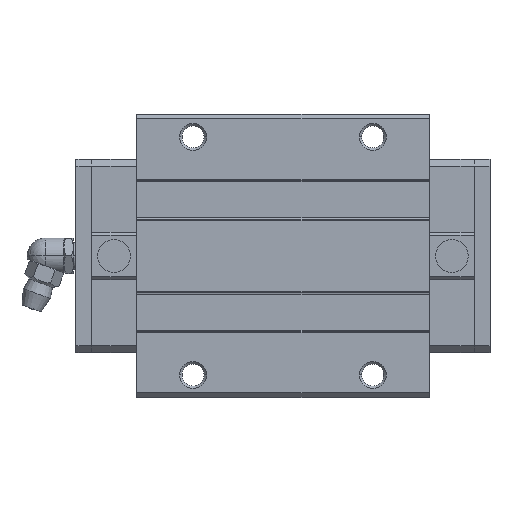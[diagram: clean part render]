
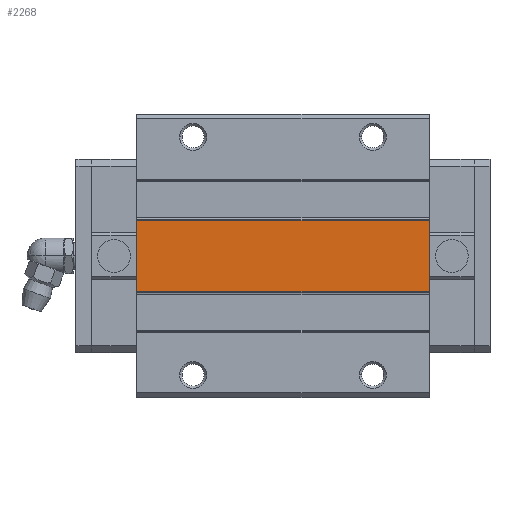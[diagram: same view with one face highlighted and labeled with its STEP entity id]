
A CAD part, top view. The second image highlights one B-rep face of the part: STEP entity #2268.
In plain terms, the highlighted planar face has unit normal (0, 0, 1).
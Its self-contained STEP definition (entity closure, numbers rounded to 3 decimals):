
#2207=CARTESIAN_POINT('POINT143',(78.7,-8.,
   25.4));
#2208=VERTEX_POINT('VERTEX143',#2207);
#2215=CARTESIAN_POINT('POINT144',(13.5,-8.,
   25.4));
#2216=VERTEX_POINT('VERTEX144',#2215);
#2217=CARTESIAN_POINT('POS219',(13.5,-8.,
   25.4));
#2218=DIRECTION('DIR318',(1.,0.,0.));
#2219=VECTOR('VEC120',#2218,1.);
#2220=LINE('STRAIGHT120',#2217,#2219);
#2221=EDGE_CURVE('EDGE211',#2216,#2208,#2220,.T.);
#2238=CARTESIAN_POINT('POINT145',(78.7,8.,25.4));
#2239=VERTEX_POINT('VERTEX145',#2238);
#2240=CARTESIAN_POINT('POS222',(78.7,-8.,
   25.4));
#2241=DIRECTION('DIR322',(0.,1.,0.));
#2242=VECTOR('VEC122',#2241,1.);
#2243=LINE('STRAIGHT122',#2240,#2242);
#2244=EDGE_CURVE('EDGE213',#2208,#2239,#2243,.T.);
#2245=ORIENTED_EDGE('COEDGE360',*,*,#2244,.T.);
#2246=CARTESIAN_POINT('POINT146',(13.5,8.,25.4));
#2247=VERTEX_POINT('VERTEX146',#2246);
#2248=CARTESIAN_POINT('POS223',(13.5,8.,25.4));
#2249=DIRECTION('DIR323',(1.,0.,0.));
#2250=VECTOR('VEC123',#2249,1.);
#2251=LINE('STRAIGHT123',#2248,#2250);
#2252=EDGE_CURVE('EDGE214',#2247,#2239,#2251,.T.);
#2253=ORIENTED_EDGE('COEDGE361',*,*,#2252,.F.);
#2254=CARTESIAN_POINT('POS224',(13.5,-8.,
   25.4));
#2255=DIRECTION('DIR324',(0.,1.,0.));
#2256=VECTOR('VEC124',#2255,1.);
#2257=LINE('STRAIGHT124',#2254,#2256);
#2258=EDGE_CURVE('EDGE215',#2216,#2247,#2257,.T.);
#2259=ORIENTED_EDGE('COEDGE362',*,*,#2258,.F.);
#2260=ORIENTED_EDGE('COEDGE363',*,*,#2221,.T.);
#2261=EDGE_LOOP('NONE',(#2245,#2253,#2259,#2260));
#2262=FACE_BOUND('LOOP1',#2261,.T.);
#2263=CARTESIAN_POINT('POS225',(13.5,-8.,
   25.4));
#2264=DIRECTION('DIR325',(0.,0.,1.));
#2265=DIRECTION('DIR326',(1.,0.,0.));
#2266=AXIS2_PLACEMENT_3D('AXIS101',#2263,#2264,#2265);
#2267=PLANE('PLANE27',#2266);
#2268=ADVANCED_FACE('FACE71',(#2262),#2267,.T.);
